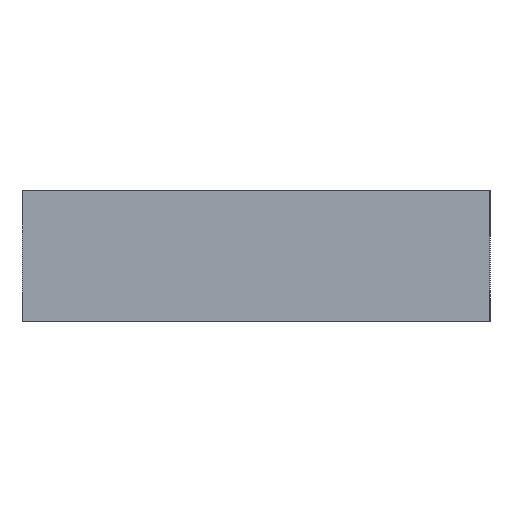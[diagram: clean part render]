
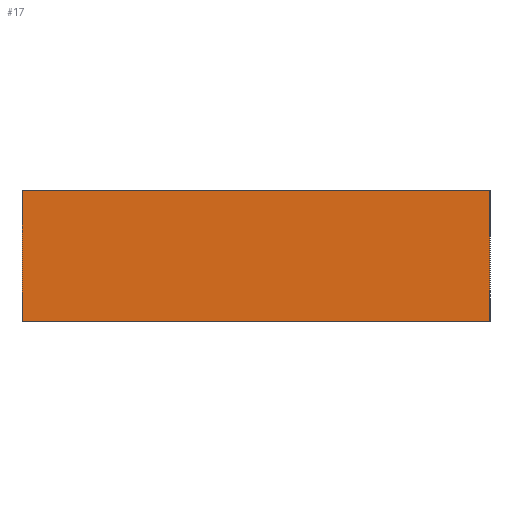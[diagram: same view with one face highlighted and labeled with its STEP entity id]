
A CAD part, left-side view. The second image highlights one B-rep face of the part: STEP entity #17.
In plain terms, the highlighted planar face has unit normal (-1, 0, 0).
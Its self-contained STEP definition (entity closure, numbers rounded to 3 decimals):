
#17 = ADVANCED_FACE('',(#18),#32,.F.);
#18 = FACE_BOUND('',#19,.F.);
#19 = EDGE_LOOP('',(#20,#55,#83,#111));
#20 = ORIENTED_EDGE('',*,*,#21,.F.);
#21 = EDGE_CURVE('',#22,#24,#26,.T.);
#22 = VERTEX_POINT('',#23);
#23 = CARTESIAN_POINT('',(-7.5,-18.618,7.45));
#24 = VERTEX_POINT('',#25);
#25 = CARTESIAN_POINT('',(-7.5,-18.618,7.95));
#26 = SURFACE_CURVE('',#27,(#31,#43),.PCURVE_S1.);
#27 = LINE('',#28,#29);
#28 = CARTESIAN_POINT('',(-7.5,-18.618,7.45));
#29 = VECTOR('',#30,1.);
#30 = DIRECTION('',(0.,0.,1.));
#31 = PCURVE('',#32,#37);
#32 = PLANE('',#33);
#33 = AXIS2_PLACEMENT_3D('',#34,#35,#36);
#34 = CARTESIAN_POINT('',(-7.5,-18.618,7.45));
#35 = DIRECTION('',(1.,0.,0.));
#36 = DIRECTION('',(0.,0.,1.));
#37 = DEFINITIONAL_REPRESENTATION('',(#38),#42);
#38 = LINE('',#39,#40);
#39 = CARTESIAN_POINT('',(0.,0.));
#40 = VECTOR('',#41,1.);
#41 = DIRECTION('',(1.,0.));
#42 = ( GEOMETRIC_REPRESENTATION_CONTEXT(2) 
PARAMETRIC_REPRESENTATION_CONTEXT() REPRESENTATION_CONTEXT('2D SPACE',''
  ) );
#43 = PCURVE('',#44,#49);
#44 = PLANE('',#45);
#45 = AXIS2_PLACEMENT_3D('',#46,#47,#48);
#46 = CARTESIAN_POINT('',(-7.5,-18.618,7.45));
#47 = DIRECTION('',(0.,1.,0.));
#48 = DIRECTION('',(0.,0.,1.));
#49 = DEFINITIONAL_REPRESENTATION('',(#50),#54);
#50 = LINE('',#51,#52);
#51 = CARTESIAN_POINT('',(0.,0.));
#52 = VECTOR('',#53,1.);
#53 = DIRECTION('',(1.,0.));
#54 = ( GEOMETRIC_REPRESENTATION_CONTEXT(2) 
PARAMETRIC_REPRESENTATION_CONTEXT() REPRESENTATION_CONTEXT('2D SPACE',''
  ) );
#55 = ORIENTED_EDGE('',*,*,#56,.T.);
#56 = EDGE_CURVE('',#22,#57,#59,.T.);
#57 = VERTEX_POINT('',#58);
#58 = CARTESIAN_POINT('',(-7.5,-16.818,7.45));
#59 = SURFACE_CURVE('',#60,(#64,#71),.PCURVE_S1.);
#60 = LINE('',#61,#62);
#61 = CARTESIAN_POINT('',(-7.5,-18.618,7.45));
#62 = VECTOR('',#63,1.);
#63 = DIRECTION('',(0.,1.,0.));
#64 = PCURVE('',#32,#65);
#65 = DEFINITIONAL_REPRESENTATION('',(#66),#70);
#66 = LINE('',#67,#68);
#67 = CARTESIAN_POINT('',(0.,0.));
#68 = VECTOR('',#69,1.);
#69 = DIRECTION('',(0.,-1.));
#70 = ( GEOMETRIC_REPRESENTATION_CONTEXT(2) 
PARAMETRIC_REPRESENTATION_CONTEXT() REPRESENTATION_CONTEXT('2D SPACE',''
  ) );
#71 = PCURVE('',#72,#77);
#72 = PLANE('',#73);
#73 = AXIS2_PLACEMENT_3D('',#74,#75,#76);
#74 = CARTESIAN_POINT('',(-7.5,-18.618,7.45));
#75 = DIRECTION('',(0.,0.,1.));
#76 = DIRECTION('',(1.,0.,0.));
#77 = DEFINITIONAL_REPRESENTATION('',(#78),#82);
#78 = LINE('',#79,#80);
#79 = CARTESIAN_POINT('',(0.,0.));
#80 = VECTOR('',#81,1.);
#81 = DIRECTION('',(0.,1.));
#82 = ( GEOMETRIC_REPRESENTATION_CONTEXT(2) 
PARAMETRIC_REPRESENTATION_CONTEXT() REPRESENTATION_CONTEXT('2D SPACE',''
  ) );
#83 = ORIENTED_EDGE('',*,*,#84,.T.);
#84 = EDGE_CURVE('',#57,#85,#87,.T.);
#85 = VERTEX_POINT('',#86);
#86 = CARTESIAN_POINT('',(-7.5,-16.818,7.95));
#87 = SURFACE_CURVE('',#88,(#92,#99),.PCURVE_S1.);
#88 = LINE('',#89,#90);
#89 = CARTESIAN_POINT('',(-7.5,-16.818,7.45));
#90 = VECTOR('',#91,1.);
#91 = DIRECTION('',(0.,0.,1.));
#92 = PCURVE('',#32,#93);
#93 = DEFINITIONAL_REPRESENTATION('',(#94),#98);
#94 = LINE('',#95,#96);
#95 = CARTESIAN_POINT('',(0.,-1.8));
#96 = VECTOR('',#97,1.);
#97 = DIRECTION('',(1.,0.));
#98 = ( GEOMETRIC_REPRESENTATION_CONTEXT(2) 
PARAMETRIC_REPRESENTATION_CONTEXT() REPRESENTATION_CONTEXT('2D SPACE',''
  ) );
#99 = PCURVE('',#100,#105);
#100 = PLANE('',#101);
#101 = AXIS2_PLACEMENT_3D('',#102,#103,#104);
#102 = CARTESIAN_POINT('',(-7.5,-16.818,7.45));
#103 = DIRECTION('',(0.,1.,0.));
#104 = DIRECTION('',(0.,0.,1.));
#105 = DEFINITIONAL_REPRESENTATION('',(#106),#110);
#106 = LINE('',#107,#108);
#107 = CARTESIAN_POINT('',(0.,0.));
#108 = VECTOR('',#109,1.);
#109 = DIRECTION('',(1.,0.));
#110 = ( GEOMETRIC_REPRESENTATION_CONTEXT(2) 
PARAMETRIC_REPRESENTATION_CONTEXT() REPRESENTATION_CONTEXT('2D SPACE',''
  ) );
#111 = ORIENTED_EDGE('',*,*,#112,.F.);
#112 = EDGE_CURVE('',#24,#85,#113,.T.);
#113 = SURFACE_CURVE('',#114,(#118,#125),.PCURVE_S1.);
#114 = LINE('',#115,#116);
#115 = CARTESIAN_POINT('',(-7.5,-18.618,7.95));
#116 = VECTOR('',#117,1.);
#117 = DIRECTION('',(0.,1.,0.));
#118 = PCURVE('',#32,#119);
#119 = DEFINITIONAL_REPRESENTATION('',(#120),#124);
#120 = LINE('',#121,#122);
#121 = CARTESIAN_POINT('',(0.5,0.));
#122 = VECTOR('',#123,1.);
#123 = DIRECTION('',(0.,-1.));
#124 = ( GEOMETRIC_REPRESENTATION_CONTEXT(2) 
PARAMETRIC_REPRESENTATION_CONTEXT() REPRESENTATION_CONTEXT('2D SPACE',''
  ) );
#125 = PCURVE('',#126,#131);
#126 = PLANE('',#127);
#127 = AXIS2_PLACEMENT_3D('',#128,#129,#130);
#128 = CARTESIAN_POINT('',(-7.5,-18.618,7.95));
#129 = DIRECTION('',(0.,0.,1.));
#130 = DIRECTION('',(1.,0.,0.));
#131 = DEFINITIONAL_REPRESENTATION('',(#132),#136);
#132 = LINE('',#133,#134);
#133 = CARTESIAN_POINT('',(0.,0.));
#134 = VECTOR('',#135,1.);
#135 = DIRECTION('',(0.,1.));
#136 = ( GEOMETRIC_REPRESENTATION_CONTEXT(2) 
PARAMETRIC_REPRESENTATION_CONTEXT() REPRESENTATION_CONTEXT('2D SPACE',''
  ) );
